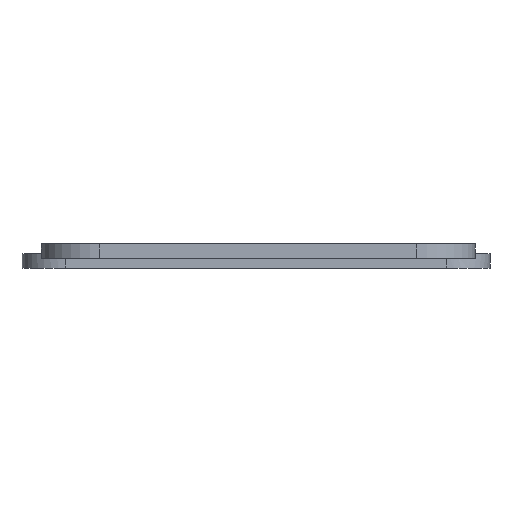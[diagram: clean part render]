
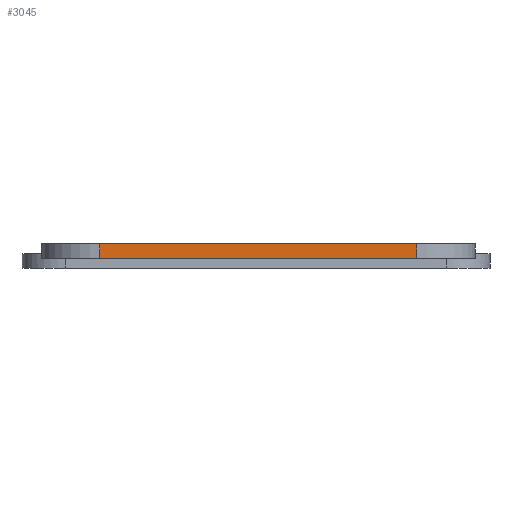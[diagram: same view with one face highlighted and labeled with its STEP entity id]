
A CAD part, left-side view. The second image highlights one B-rep face of the part: STEP entity #3045.
In plain terms, the highlighted planar face has unit normal (-1, 0, 0).
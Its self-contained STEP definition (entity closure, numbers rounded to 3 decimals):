
#1597 = PLANE('',#1598);
#1598 = AXIS2_PLACEMENT_3D('',#1599,#1600,#1601);
#1599 = CARTESIAN_POINT('',(-42.,-43.,-43.));
#1600 = DIRECTION('',(0.,0.,1.));
#1601 = DIRECTION('',(1.,0.,0.));
#1761 = PLANE('',#1762);
#1762 = AXIS2_PLACEMENT_3D('',#1763,#1764,#1765);
#1763 = CARTESIAN_POINT('',(-42.,-43.,-40.));
#1764 = DIRECTION('',(-0.,-0.,1.));
#1765 = DIRECTION('',(1.,0.,0.));
#2553 = VERTEX_POINT('',#2554);
#2554 = CARTESIAN_POINT('',(-83.,-31.,-43.));
#2569 = CYLINDRICAL_SURFACE('',#2570,12.);
#2570 = AXIS2_PLACEMENT_3D('',#2571,#2572,#2573);
#2571 = CARTESIAN_POINT('',(-71.,-31.,-43.));
#2572 = DIRECTION('',(-0.,-0.,1.));
#2573 = DIRECTION('',(-1.,-0.,-0.));
#2581 = EDGE_CURVE('',#2553,#2582,#2584,.T.);
#2582 = VERTEX_POINT('',#2583);
#2583 = CARTESIAN_POINT('',(-83.,34.,-43.));
#2584 = SURFACE_CURVE('',#2585,(#2589,#2596),.PCURVE_S1.);
#2585 = LINE('',#2586,#2587);
#2586 = CARTESIAN_POINT('',(-83.,-43.,-43.));
#2587 = VECTOR('',#2588,1.);
#2588 = DIRECTION('',(-0.,1.,0.));
#2589 = PCURVE('',#1597,#2590);
#2590 = DEFINITIONAL_REPRESENTATION('',(#2591),#2595);
#2591 = LINE('',#2592,#2593);
#2592 = CARTESIAN_POINT('',(-41.,0.));
#2593 = VECTOR('',#2594,1.);
#2594 = DIRECTION('',(-0.,1.));
#2595 = ( GEOMETRIC_REPRESENTATION_CONTEXT(2) 
PARAMETRIC_REPRESENTATION_CONTEXT() REPRESENTATION_CONTEXT('2D SPACE',''
  ) );
#2596 = PCURVE('',#2597,#2602);
#2597 = PLANE('',#2598);
#2598 = AXIS2_PLACEMENT_3D('',#2599,#2600,#2601);
#2599 = CARTESIAN_POINT('',(-83.,-43.,-43.));
#2600 = DIRECTION('',(-1.,-0.,0.));
#2601 = DIRECTION('',(0.,0.,-1.));
#2602 = DEFINITIONAL_REPRESENTATION('',(#2603),#2607);
#2603 = LINE('',#2604,#2605);
#2604 = CARTESIAN_POINT('',(-0.,-0.));
#2605 = VECTOR('',#2606,1.);
#2606 = DIRECTION('',(-0.,-1.));
#2607 = ( GEOMETRIC_REPRESENTATION_CONTEXT(2) 
PARAMETRIC_REPRESENTATION_CONTEXT() REPRESENTATION_CONTEXT('2D SPACE',''
  ) );
#2630 = CYLINDRICAL_SURFACE('',#2631,12.);
#2631 = AXIS2_PLACEMENT_3D('',#2632,#2633,#2634);
#2632 = CARTESIAN_POINT('',(-71.,34.,-43.));
#2633 = DIRECTION('',(-0.,-0.,1.));
#2634 = DIRECTION('',(-1.,-0.,-0.));
#2860 = VERTEX_POINT('',#2861);
#2861 = CARTESIAN_POINT('',(-83.,-31.,-40.));
#2883 = EDGE_CURVE('',#2860,#2884,#2886,.T.);
#2884 = VERTEX_POINT('',#2885);
#2885 = CARTESIAN_POINT('',(-83.,34.,-40.));
#2886 = SURFACE_CURVE('',#2887,(#2891,#2898),.PCURVE_S1.);
#2887 = LINE('',#2888,#2889);
#2888 = CARTESIAN_POINT('',(-83.,-43.,-40.));
#2889 = VECTOR('',#2890,1.);
#2890 = DIRECTION('',(-0.,1.,0.));
#2891 = PCURVE('',#1761,#2892);
#2892 = DEFINITIONAL_REPRESENTATION('',(#2893),#2897);
#2893 = LINE('',#2894,#2895);
#2894 = CARTESIAN_POINT('',(-41.,0.));
#2895 = VECTOR('',#2896,1.);
#2896 = DIRECTION('',(0.,1.));
#2897 = ( GEOMETRIC_REPRESENTATION_CONTEXT(2) 
PARAMETRIC_REPRESENTATION_CONTEXT() REPRESENTATION_CONTEXT('2D SPACE',''
  ) );
#2898 = PCURVE('',#2597,#2899);
#2899 = DEFINITIONAL_REPRESENTATION('',(#2900),#2904);
#2900 = LINE('',#2901,#2902);
#2901 = CARTESIAN_POINT('',(-3.,-0.));
#2902 = VECTOR('',#2903,1.);
#2903 = DIRECTION('',(-0.,-1.));
#2904 = ( GEOMETRIC_REPRESENTATION_CONTEXT(2) 
PARAMETRIC_REPRESENTATION_CONTEXT() REPRESENTATION_CONTEXT('2D SPACE',''
  ) );
#3025 = EDGE_CURVE('',#2553,#2860,#3026,.T.);
#3026 = SURFACE_CURVE('',#3027,(#3031,#3038),.PCURVE_S1.);
#3027 = LINE('',#3028,#3029);
#3028 = CARTESIAN_POINT('',(-83.,-31.,-43.));
#3029 = VECTOR('',#3030,1.);
#3030 = DIRECTION('',(-0.,-0.,1.));
#3031 = PCURVE('',#2569,#3032);
#3032 = DEFINITIONAL_REPRESENTATION('',(#3033),#3037);
#3033 = LINE('',#3034,#3035);
#3034 = CARTESIAN_POINT('',(0.,0.));
#3035 = VECTOR('',#3036,1.);
#3036 = DIRECTION('',(0.,1.));
#3037 = ( GEOMETRIC_REPRESENTATION_CONTEXT(2) 
PARAMETRIC_REPRESENTATION_CONTEXT() REPRESENTATION_CONTEXT('2D SPACE',''
  ) );
#3038 = PCURVE('',#2597,#3039);
#3039 = DEFINITIONAL_REPRESENTATION('',(#3040),#3044);
#3040 = LINE('',#3041,#3042);
#3041 = CARTESIAN_POINT('',(-0.,-12.));
#3042 = VECTOR('',#3043,1.);
#3043 = DIRECTION('',(-1.,-0.));
#3044 = ( GEOMETRIC_REPRESENTATION_CONTEXT(2) 
PARAMETRIC_REPRESENTATION_CONTEXT() REPRESENTATION_CONTEXT('2D SPACE',''
  ) );
#3045 = ADVANCED_FACE('',(#3046),#2597,.T.);
#3046 = FACE_BOUND('',#3047,.F.);
#3047 = EDGE_LOOP('',(#3048,#3049,#3050,#3051));
#3048 = ORIENTED_EDGE('',*,*,#2883,.F.);
#3049 = ORIENTED_EDGE('',*,*,#3025,.F.);
#3050 = ORIENTED_EDGE('',*,*,#2581,.T.);
#3051 = ORIENTED_EDGE('',*,*,#3052,.T.);
#3052 = EDGE_CURVE('',#2582,#2884,#3053,.T.);
#3053 = SURFACE_CURVE('',#3054,(#3058,#3065),.PCURVE_S1.);
#3054 = LINE('',#3055,#3056);
#3055 = CARTESIAN_POINT('',(-83.,34.,-43.));
#3056 = VECTOR('',#3057,1.);
#3057 = DIRECTION('',(-0.,-0.,1.));
#3058 = PCURVE('',#2597,#3059);
#3059 = DEFINITIONAL_REPRESENTATION('',(#3060),#3064);
#3060 = LINE('',#3061,#3062);
#3061 = CARTESIAN_POINT('',(-0.,-77.));
#3062 = VECTOR('',#3063,1.);
#3063 = DIRECTION('',(-1.,-0.));
#3064 = ( GEOMETRIC_REPRESENTATION_CONTEXT(2) 
PARAMETRIC_REPRESENTATION_CONTEXT() REPRESENTATION_CONTEXT('2D SPACE',''
  ) );
#3065 = PCURVE('',#2630,#3066);
#3066 = DEFINITIONAL_REPRESENTATION('',(#3067),#3071);
#3067 = LINE('',#3068,#3069);
#3068 = CARTESIAN_POINT('',(-0.,0.));
#3069 = VECTOR('',#3070,1.);
#3070 = DIRECTION('',(-0.,1.));
#3071 = ( GEOMETRIC_REPRESENTATION_CONTEXT(2) 
PARAMETRIC_REPRESENTATION_CONTEXT() REPRESENTATION_CONTEXT('2D SPACE',''
  ) );
